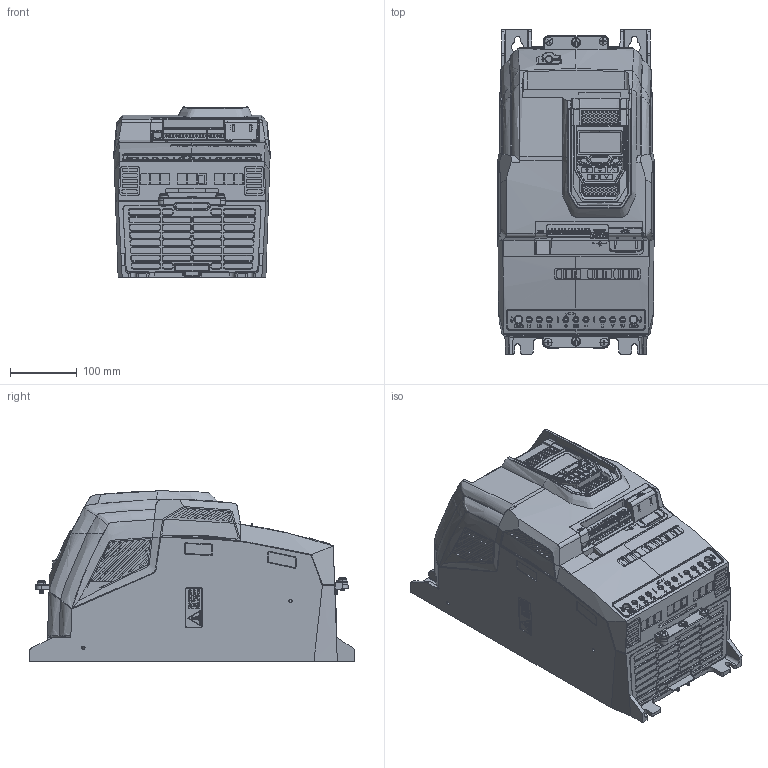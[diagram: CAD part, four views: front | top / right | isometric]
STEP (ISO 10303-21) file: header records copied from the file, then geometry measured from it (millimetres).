
FILE_DESCRIPTION (( 'STEP AP203' ), '1' );
FILE_NAME ('P2.IP20.S5.TFT (ENVELOPE).STEP', '2022-01-25T11:19:36', ( '' ), ( '' ), 'SwSTEP 2.0', 'SolidWorks 2021', '' );
FILE_SCHEMA (( 'CONFIG_CONTROL_DESIGN' ));
Products named in the file (1): P2.IP20.S5.TFT (ENVELOPE)
Bounding box: 234.03 x 486.12 x 254.82 mm (x, y, z)
Volume: 16494196.7 mm3; surface area: 1366087.7 mm2
Topology: 1 solids, 1 shells, 8611 faces, 23070 edges, 15096 vertices
Faces by surface type: plane 3962, bspline 3384, cylinder 1020, cone 180, torus 53, sphere 12
Entity records: 381280 total; most frequent: CARTESIAN_POINT 200109, ORIENTED_EDGE 46052, DIRECTION 23415, EDGE_CURVE 23026, VERTEX_POINT 15096, B_SPLINE_CURVE_WITH_KNOTS 10349, VECTOR 10109, LINE 10109
